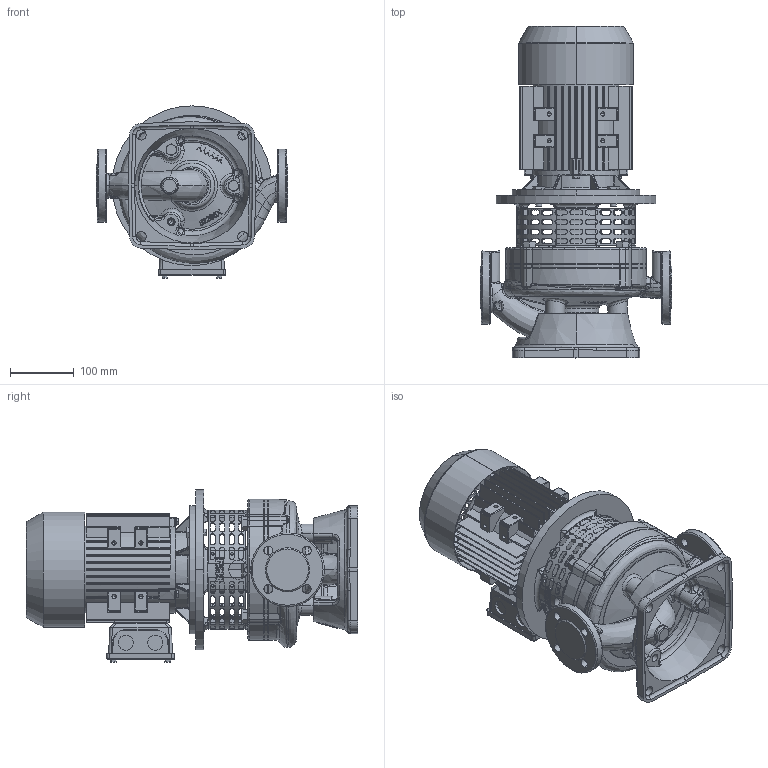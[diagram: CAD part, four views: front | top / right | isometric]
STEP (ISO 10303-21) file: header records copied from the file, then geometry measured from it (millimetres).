
FILE_DESCRIPTION((''),'2;1');
FILE_NAME('ESL25-180_A12_SW0001','2019-08-29T',('brhe'),(''),'PRO/ENGINEER BY PARAMETRIC TECHNOLOGY CORPORATION, 2017170','PRO/ENGINEER BY PARAMETRIC TECHNOLOGY CORPORATION, 2017170','');
FILE_SCHEMA(('CONFIG_CONTROL_DESIGN'));
Products named in the file (1): ESL25-180_A12_SW0001
Bounding box: 300 x 518.9 x 269.5 mm (x, y, z)
Volume: 8426242.1 mm3; surface area: 1056458.8 mm2
Topology: 2 solids, 2 shells, 3809 faces, 10378 edges, 6641 vertices
Faces by surface type: plane 1682, cylinder 667, bspline 578, extrusion 483, cone 242, torus 134, sphere 23
Entity records: 177044 total; most frequent: CARTESIAN_POINT 87300, ORIENTED_EDGE 20682, DIRECTION 15088, EDGE_CURVE 10341, VERTEX_POINT 6641, VECTOR 5052, AXIS2_PLACEMENT_3D 5018, LINE 4569
